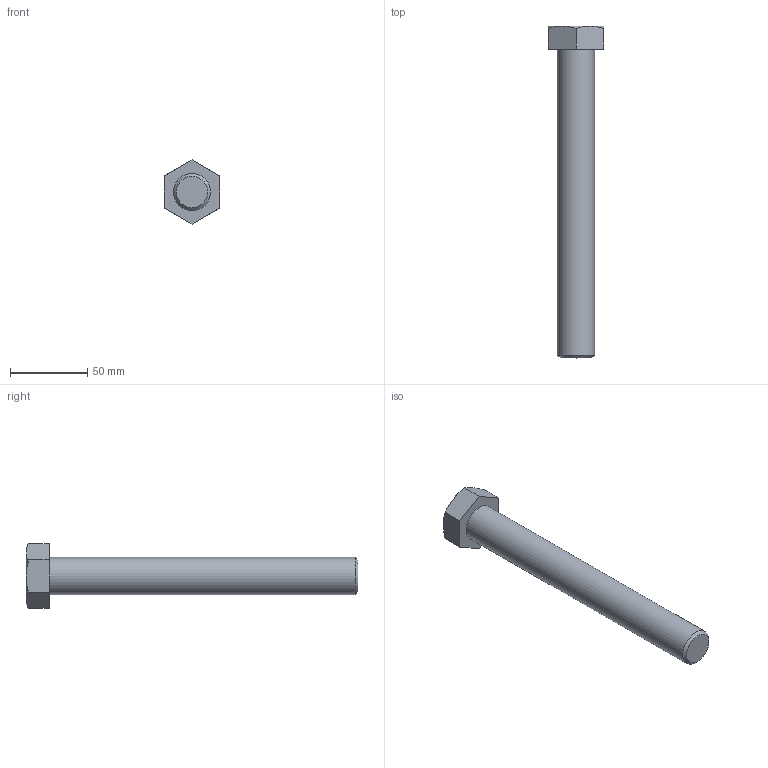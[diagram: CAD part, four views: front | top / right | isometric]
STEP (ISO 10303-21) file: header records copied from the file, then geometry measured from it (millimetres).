
FILE_DESCRIPTION(/* description */ (''),/* implementation_level */ '2;1');
FILE_NAME(/* name */ 'C:\Users\unitec\Documents\Inventor\各種小物\JIS\JIS B 1180 六角ボルト 等級C\hbc24\M24x200.stp',/* time_stamp */ '2015-02-13T14:54:24+09:00',/* author */ ('unitec'),/* organization */ (''),/* preprocessor_version */ 'ST-DEVELOPER v15.2',/* originating_system */ 'Autodesk Inventor 2014',/* authorisation */ '');
FILE_SCHEMA (('AUTOMOTIVE_DESIGN { 1 0 10303 214 3 1 1 }'));
Length unit declared in the file: millimetre
Products named in the file (1): M24x200
Bounding box: 36 x 215 x 41.57 mm (x, y, z)
Volume: 107141.6 mm3; surface area: 19056.7 mm2
Topology: 1 solids, 1 shells, 17 faces, 35 edges, 21 vertices
Faces by surface type: plane 9, cone 7, cylinder 1
Full cylindrical faces by diameter (mm): 24 x1
Entity records: 441 total; most frequent: CARTESIAN_POINT 96, ORIENTED_EDGE 66, DIRECTION 66, EDGE_CURVE 33, AXIS2_PLACEMENT_3D 27, VERTEX_POINT 21, EDGE_LOOP 20, ADVANCED_FACE 17
